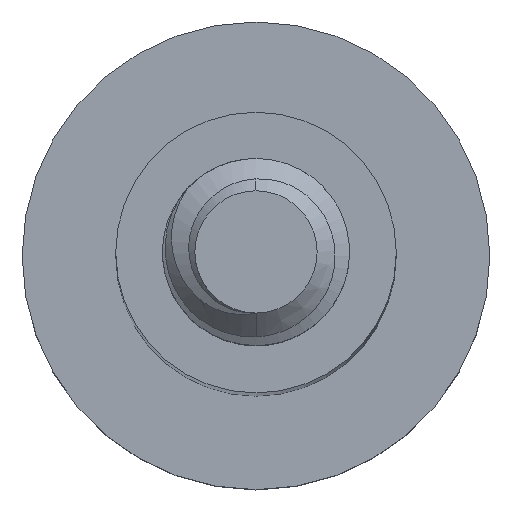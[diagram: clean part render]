
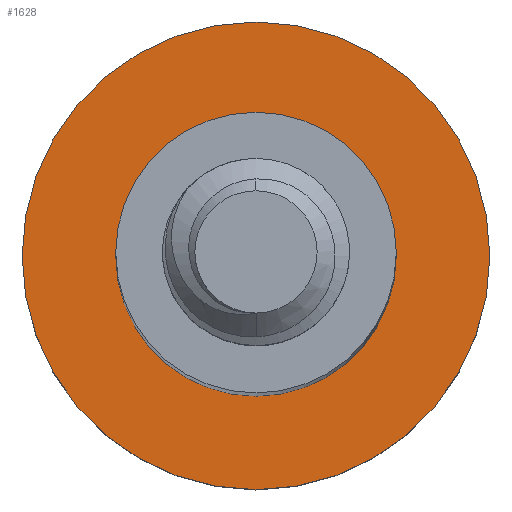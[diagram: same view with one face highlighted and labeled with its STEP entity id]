
A CAD part, top view. The second image highlights one B-rep face of the part: STEP entity #1628.
In plain terms, the highlighted planar face has unit normal (0, 0, 1).
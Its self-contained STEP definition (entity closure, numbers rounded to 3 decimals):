
#22 = AXIS2_PLACEMENT_3D ( 'NONE', #2431, #1290, #2051 ) ;
#31 = CARTESIAN_POINT ( 'NONE',  ( 1.5, 0., -20. ) ) ;
#68 = ORIENTED_EDGE ( 'NONE', *, *, #1552, .F. ) ;
#138 = EDGE_CURVE ( 'NONE', #1060, #2218, #2022, .T. ) ;
#264 = CIRCLE ( 'NONE', #549, 1.5 ) ;
#310 = CIRCLE ( 'NONE', #1268, 2.5 ) ;
#322 = DIRECTION ( 'NONE',  ( -1., 0., 0. ) ) ;
#450 = EDGE_LOOP ( 'NONE', ( #2136, #1229 ) ) ;
#491 = ORIENTED_EDGE ( 'NONE', *, *, #138, .F. ) ;
#549 = AXIS2_PLACEMENT_3D ( 'NONE', #1089, #2037, #322 ) ;
#713 = CIRCLE ( 'NONE', #1673, 1.5 ) ;
#733 = EDGE_CURVE ( 'NONE', #1710, #2158, #264, .T. ) ;
#778 = EDGE_LOOP ( 'NONE', ( #68, #491 ) ) ;
#838 = DIRECTION ( 'NONE',  ( -1., 0., 0. ) ) ;
#899 = PLANE ( 'NONE',  #22 ) ;
#1060 = VERTEX_POINT ( 'NONE', #1839 ) ;
#1089 = CARTESIAN_POINT ( 'NONE',  ( 0., 0., -20. ) ) ;
#1199 = CARTESIAN_POINT ( 'NONE',  ( 0., 0., -20. ) ) ;
#1229 = ORIENTED_EDGE ( 'NONE', *, *, #1712, .T. ) ;
#1262 = AXIS2_PLACEMENT_3D ( 'NONE', #1920, #1518, #2293 ) ;
#1268 = AXIS2_PLACEMENT_3D ( 'NONE', #1199, #1789, #838 ) ;
#1290 = DIRECTION ( 'NONE',  ( 0., 0., -1. ) ) ;
#1356 = CARTESIAN_POINT ( 'NONE',  ( -1.5, 0., -20. ) ) ;
#1518 = DIRECTION ( 'NONE',  ( 0., 0., -1. ) ) ;
#1552 = EDGE_CURVE ( 'NONE', #2218, #1060, #310, .T. ) ;
#1553 = CARTESIAN_POINT ( 'NONE',  ( 2.5, 0., -20. ) ) ;
#1628 = ADVANCED_FACE ( 'NONE', ( #1852, #1840 ), #899, .F. ) ;
#1673 = AXIS2_PLACEMENT_3D ( 'NONE', #2146, #1979, #1959 ) ;
#1710 = VERTEX_POINT ( 'NONE', #1356 ) ;
#1712 = EDGE_CURVE ( 'NONE', #2158, #1710, #713, .T. ) ;
#1789 = DIRECTION ( 'NONE',  ( 0., 0., -1. ) ) ;
#1839 = CARTESIAN_POINT ( 'NONE',  ( -2.5, 0., -20. ) ) ;
#1840 = FACE_OUTER_BOUND ( 'NONE', #778, .T. ) ;
#1852 = FACE_BOUND ( 'NONE', #450, .T. ) ;
#1920 = CARTESIAN_POINT ( 'NONE',  ( 0., 0., -20. ) ) ;
#1959 = DIRECTION ( 'NONE',  ( -1., 0., 0. ) ) ;
#1979 = DIRECTION ( 'NONE',  ( 0., 0., -1. ) ) ;
#2022 = CIRCLE ( 'NONE', #1262, 2.5 ) ;
#2037 = DIRECTION ( 'NONE',  ( 0., 0., -1. ) ) ;
#2051 = DIRECTION ( 'NONE',  ( -1., 0., 0. ) ) ;
#2136 = ORIENTED_EDGE ( 'NONE', *, *, #733, .T. ) ;
#2146 = CARTESIAN_POINT ( 'NONE',  ( 0., 0., -20. ) ) ;
#2158 = VERTEX_POINT ( 'NONE', #31 ) ;
#2218 = VERTEX_POINT ( 'NONE', #1553 ) ;
#2293 = DIRECTION ( 'NONE',  ( -1., 0., 0. ) ) ;
#2431 = CARTESIAN_POINT ( 'NONE',  ( 0., 0., -20. ) ) ;
